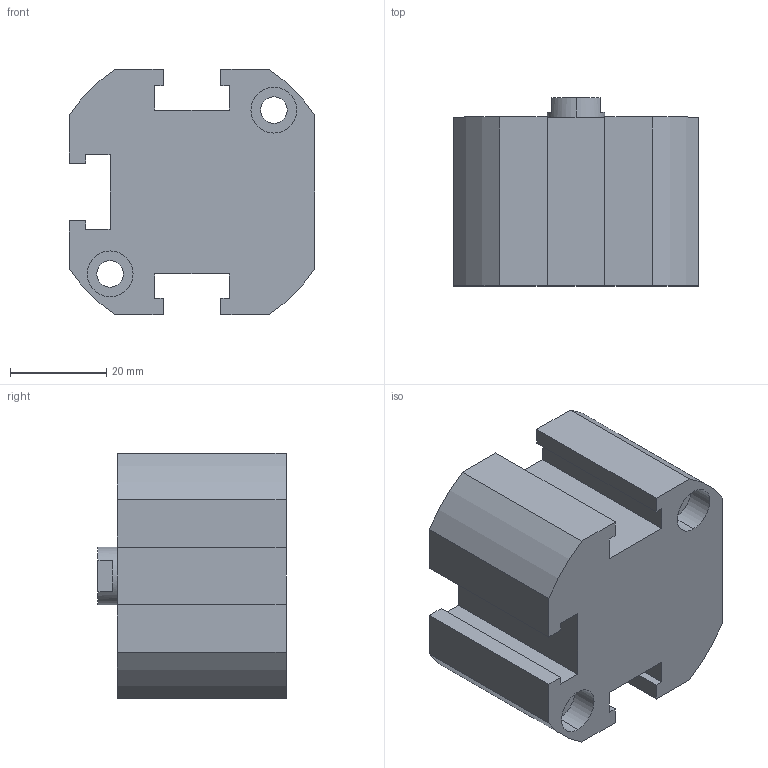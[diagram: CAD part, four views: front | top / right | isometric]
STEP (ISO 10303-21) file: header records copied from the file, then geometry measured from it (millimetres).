
FILE_DESCRIPTION (( 'STEP AP203' ), '1' );
FILE_NAME ('XC#2-32-10.STEP', '2016-05-23T08:08:20', ( '' ), ( '' ), 'SwSTEP 2.0', 'SolidWorks 2014', '' );
FILE_SCHEMA (( 'CONFIG_CONTROL_DESIGN' ));
Length unit declared in the file: millimetre
Products named in the file (1): XC#2-32-10
Bounding box: 51 x 39 x 51 mm (x, y, z)
Volume: 68205.1 mm3; surface area: 15771.4 mm2
Topology: 1 solids, 1 shells, 98 faces, 247 edges, 159 vertices
Faces by surface type: plane 46, cylinder 42, cone 10
Entity records: 3006 total; most frequent: DIRECTION 535, CARTESIAN_POINT 499, ORIENTED_EDGE 482, EDGE_CURVE 241, AXIS2_PLACEMENT_3D 195, VERTEX_POINT 159, VECTOR 145, LINE 145
